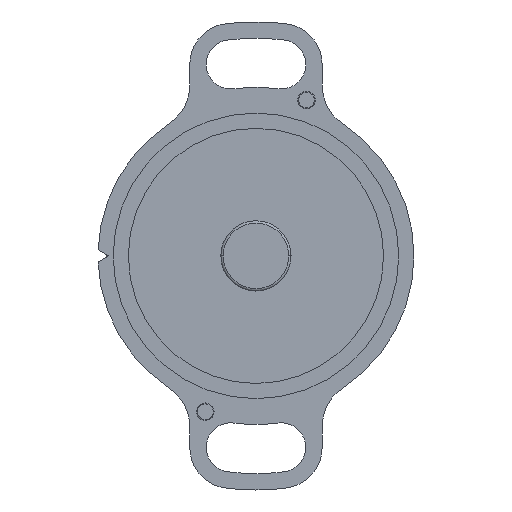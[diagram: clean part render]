
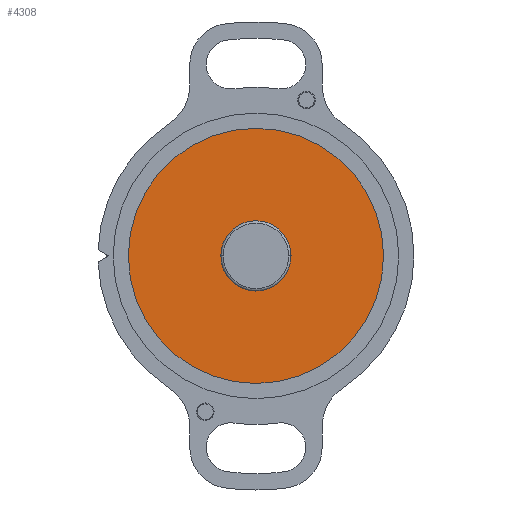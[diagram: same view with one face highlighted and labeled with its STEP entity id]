
A CAD part, front view. The second image highlights one B-rep face of the part: STEP entity #4308.
In plain terms, the highlighted planar face has unit normal (0, -1, 0).
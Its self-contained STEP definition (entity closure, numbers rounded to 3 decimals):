
#83 = ORIENTED_EDGE ( 'NONE', *, *, #3695, .T. ) ;
#210 = CARTESIAN_POINT ( 'NONE',  ( -18.5, 0., 0. ) ) ;
#222 = AXIS2_PLACEMENT_3D ( 'NONE', #3688, #500, #1901 ) ;
#464 = FACE_OUTER_BOUND ( 'NONE', #874, .T. ) ;
#500 = DIRECTION ( 'NONE',  ( 0., -1., 0. ) ) ;
#505 = PLANE ( 'NONE',  #2358 ) ;
#837 = CARTESIAN_POINT ( 'NONE',  ( 0., 0., -10.9 ) ) ;
#874 = EDGE_LOOP ( 'NONE', ( #1250, #83 ) ) ;
#1250 = ORIENTED_EDGE ( 'NONE', *, *, #3600, .T. ) ;
#1336 = CARTESIAN_POINT ( 'NONE',  ( 0., 0., 10.9 ) ) ;
#1428 = CIRCLE ( 'NONE', #222, 10.9 ) ;
#1843 = DIRECTION ( 'NONE',  ( 0., -1., 0. ) ) ;
#1864 = DIRECTION ( 'NONE',  ( 0., 0., -1. ) ) ;
#1901 = DIRECTION ( 'NONE',  ( 0., 0., -1. ) ) ;
#2101 = CIRCLE ( 'NONE', #2480, 10.9 ) ;
#2358 = AXIS2_PLACEMENT_3D ( 'NONE', #210, #4481, #3895 ) ;
#2480 = AXIS2_PLACEMENT_3D ( 'NONE', #3618, #1843, #1864 ) ;
#2880 = VERTEX_POINT ( 'NONE', #837 ) ;
#3600 = EDGE_CURVE ( 'NONE', #2880, #4202, #1428, .T. ) ;
#3618 = CARTESIAN_POINT ( 'NONE',  ( 0., 0., 0. ) ) ;
#3688 = CARTESIAN_POINT ( 'NONE',  ( 0., 0., 0. ) ) ;
#3695 = EDGE_CURVE ( 'NONE', #4202, #2880, #2101, .T. ) ;
#3895 = DIRECTION ( 'NONE',  ( 0., 0., 1. ) ) ;
#4202 = VERTEX_POINT ( 'NONE', #1336 ) ;
#4308 = ADVANCED_FACE ( 'NONE', ( #464 ), #505, .F. ) ;
#4481 = DIRECTION ( 'NONE',  ( 0., 1., 0. ) ) ;
